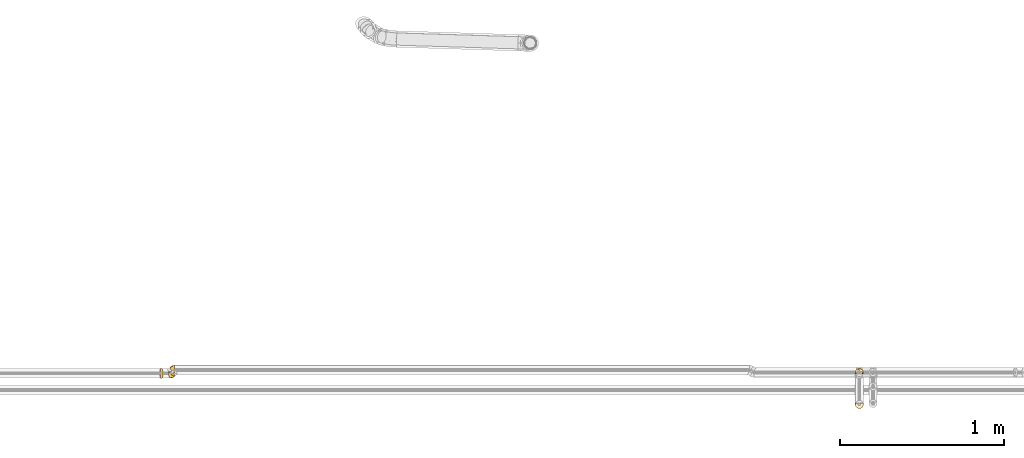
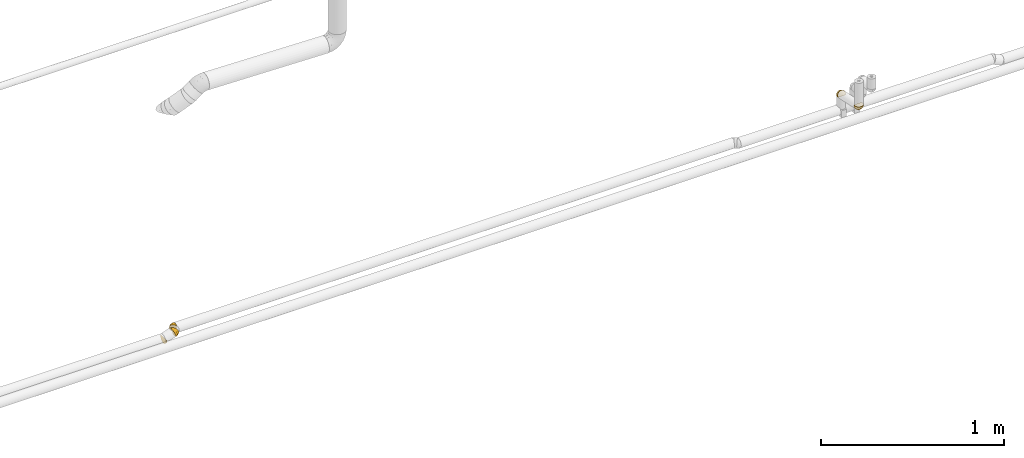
# One storey, part 42 of 156: 5 coverings.
"""IFC2X3 building model written with IfcOpenShell, lengths in millimetres."""

from ifc_helpers import new_model, entity, si_unit, converted_unit, derived_unit, direction, frame, origin_with_axes, place, context, subcontext, project, spatial, open_shell, surface_model, source, transform, mapped, element, save


model = new_model("IFC2X3")

# Units and contexts
model_context = context("Model", 3, precision=0.01, world=frame((0.0, 4.29681676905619e-09, 0.0)), true_north=direction((4.01073788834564e-13, 1.0)))
plan_context = context("Plan", 3, precision=0.01, world=frame((0.0, 4.29681676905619e-09, 0.0)), true_north=direction((4.01073788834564e-13, 1.0)))
body_context = subcontext(model_context, "Body", "Model", "MODEL_VIEW")
ifc_project = project(units=[converted_unit("PLANEANGLEUNIT", "DEGREE", entity("IfcPositiveLengthMeasure", 0.0174532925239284), si_unit("PLANEANGLEUNIT", "RADIAN"), dimensions=[0, 0, 0, 0, 0, 0, 0]), si_unit("AREAUNIT", "SQUARE_METRE"), si_unit("LENGTHUNIT", "METRE", prefix="MILLI"), si_unit("MASSUNIT", "GRAM", prefix="KILO"), si_unit("POWERUNIT", "WATT"), si_unit("PRESSUREUNIT", "PASCAL", prefix="KILO"), si_unit("FORCEUNIT", "NEWTON", prefix="KILO"), si_unit("ELECTRICVOLTAGEUNIT", "VOLT"), si_unit("ELECTRICCURRENTUNIT", "AMPERE"), si_unit("THERMODYNAMICTEMPERATUREUNIT", "DEGREE_CELSIUS"), si_unit("TIMEUNIT", "SECOND"), si_unit("VOLUMEUNIT", "CUBIC_METRE"), derived_unit("LINEARVELOCITYUNIT", [(si_unit("LENGTHUNIT", "METRE"), 1), (si_unit("TIMEUNIT", "SECOND"), -1)]), derived_unit("VOLUMETRICFLOWRATEUNIT", [(si_unit("VOLUMEUNIT", "CUBIC_METRE"), 1), (si_unit("TIMEUNIT", "SECOND"), -1)]), derived_unit("THERMALTRANSMITTANCEUNIT", [(si_unit("POWERUNIT", "WATT"), 1), (si_unit("THERMODYNAMICTEMPERATUREUNIT", "KELVIN"), -1), (si_unit("AREAUNIT", "SQUARE_METRE"), -1)]), derived_unit("SOUNDPRESSUREUNIT", [(si_unit("PRESSUREUNIT", "PASCAL"), 1)])], contexts=[model_context, plan_context])

# Site, building, storey
site_placement = place(None, frame((0.0, -4.29681676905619e-09, 0.0), z_axis=(0.0, 0.0, 1.0), x_axis=(1.0, 0.0, 0.0)))
site = spatial("IfcSite", under=ifc_project, at=site_placement, CompositionType="ELEMENT")
building_placement = place(site_placement, frame((0.0, 4.29681676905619e-09, 0.0), z_axis=(0.0, 0.0, 1.0), x_axis=(1.0, 0.0, 0.0)))
building = spatial("IfcBuilding", under=site, at=building_placement, Name="mc-building", CompositionType="ELEMENT")
storey_placement = place(building_placement, frame((0.0, 0.0, 205200.0), z_axis=(0.0, 0.0, 1.0), x_axis=(1.0, 0.0, 0.0)))
storey = spatial("IfcBuildingStorey", under=building, at=storey_placement, Name="Nivå D + 1,2 m", CompositionType="ELEMENT", Elevation=205200.0)

# Coverings
shared_shape_1 = source(origin_with_axes(), body_context, "Body", "SurfaceModel", [
    surface_model("IfcShellBasedSurfaceModel", [(-4.29663, 9.81241, 28.38286), (-0.70159, 6.63636, 29.59387), (2.98532, 3.37915, 30.0), (7.99073, -1.04289, 29.24708), (-4.29663, 9.81241, -28.38286), (-0.70988, 6.64369, -29.59203), (2.98532, 3.37915, -30.0), (7.98537, -1.03815, -29.24871), (12.73702, -5.23601, -27.03116), (16.99989, -9.00205, -23.45843), (17.00659, -9.00797, 23.45129), (20.56575, -12.15231, 18.70033), (23.24325, -14.51776, 13.01217), (24.90515, -15.98597, 6.67182), (24.90393, -15.98489, -6.67896), (20.5604, -12.14759, -18.70927), (23.23998, -14.51487, -13.02124), (25.46819, -16.48339, 0.0), (12.74382, -5.24201, 27.02679), (-4.50897, 9.71666, 28.38286), (-4.50897, 9.71666, -28.38286), (-4.50897, 4.92516, -29.59295), (-4.50897, 0.0, -30.0), (-4.50897, -7.76457, -28.97778), (-4.50897, 4.92516, 29.59295), (-4.50897, -7.76457, 28.97778), (-4.50897, 0.0, 30.0), (-4.50897, -15.0, -25.98076), (-4.50897, -21.2132, -21.2132), (-4.50897, -25.98076, -15.0), (-4.50897, -25.98076, 15.0), (-4.50897, -28.97778, -7.76457), (-4.50897, -21.2132, 21.2132), (-4.50897, -15.0, 25.98076), (-4.50897, -28.97778, 7.76457), (-4.50897, -30.0, 0.0), (-4.39251, 9.74171, 28.38286), (-4.39251, 9.74171, -28.38286), (0.68405, 5.41221, -29.74593), (-0.39852, 0.88385, -30.0), (-4.50897, 6.72926, -29.13732), (4.60805, -25.41982, -13.92133), (1.25517, -17.66881, -23.8006), (10.25408, -22.17336, -15.96566), (2.63993, -22.6679, -18.7222), (7.02106, -18.6166, -21.56827), (0.96042, -7.83773, -28.72367), (6.62166, -6.50116, -28.31794), (6.31651, -13.59135, -25.40449), (-0.19355, -12.8375, -26.91949), (3.71192, -28.2323, 0.0), (6.84037, -27.01979, -8.66814), (16.91621, -21.76486, -9.91246), (11.93281, -26.46461, 0.0), (-2.45375, 0.44192, -30.0), (11.27791, -10.60382, -25.40449), (1.2934, 2.1315, -30.0), (18.7005, -21.474, 0.0), (12.94339, -15.87328, -21.21725), (17.02068, -18.09888, -15.96566), (6.84282, -27.02242, 8.6574), (2.38458, -23.09017, 18.26284), (16.91875, -21.76661, 9.90425), (10.25688, -22.17838, 15.95655), (11.28343, -10.61106, 25.39877), (12.94791, -15.87999, 21.20916), (6.32, -13.59976, 25.39877), (1.45398, -13.16621, 26.57436), (1.63116, -18.05822, 23.44097), (1.2934, 2.1315, 30.0), (6.62576, -6.5083, 28.31507), (2.3461, -26.2775, 13.24165), (-2.45375, 0.44192, 30.0), (0.96285, -7.84821, 28.72044), (17.02418, -18.10341, 15.95656), (-0.39852, 0.88385, 30.0), (7.28871, -19.28089, 20.85209), (-2.05774, 7.83445, 29.13704), (-4.50897, 3.07073, 29.74622)], [open_shell([[[0, 1, 2]], [[2, 3, 0]], [[0, 3, 4]], [[5, 4, 6]], [[4, 7, 6]], [[7, 4, 8]], [[8, 4, 9]], [[4, 3, 10]], [[10, 11, 4]], [[12, 13, 4]], [[12, 4, 11]], [[14, 4, 13]], [[15, 9, 16]], [[9, 14, 16]], [[4, 14, 9]], [[13, 17, 14]], [[10, 3, 18]], [[19, 20, 21]], [[22, 23, 21]], [[24, 21, 23]], [[19, 21, 24]], [[25, 26, 24]], [[23, 25, 24]], [[23, 27, 25]], [[27, 28, 29]], [[27, 29, 30]], [[30, 29, 31]], [[25, 32, 33]], [[27, 30, 32]], [[34, 30, 31]], [[31, 35, 34]], [[32, 25, 27]], [[20, 19, 36]], [[37, 20, 36]], [[0, 4, 36]], [[37, 36, 4]], [[38, 6, 39]], [[5, 37, 4]], [[5, 40, 37]], [[21, 39, 22]], [[5, 38, 21]], [[21, 38, 39]], [[20, 37, 40]], [[21, 40, 5]], [[31, 29, 41]], [[28, 27, 42]], [[43, 44, 45]], [[42, 44, 28]], [[46, 47, 48]], [[23, 46, 49]], [[50, 31, 51]], [[46, 39, 47]], [[44, 43, 41]], [[52, 51, 43]], [[29, 28, 44]], [[51, 53, 50]], [[23, 54, 46]], [[50, 35, 31]], [[8, 9, 55]], [[8, 55, 47]], [[6, 7, 56]], [[56, 7, 47]], [[14, 57, 52]], [[49, 48, 42]], [[9, 15, 58]], [[48, 55, 58]], [[52, 53, 51]], [[16, 14, 52]], [[59, 58, 15]], [[43, 59, 52]], [[54, 23, 22]], [[59, 15, 16]], [[47, 55, 48]], [[8, 47, 7]], [[52, 59, 16]], [[58, 55, 9]], [[58, 59, 43]], [[49, 42, 27]], [[48, 58, 45]], [[45, 44, 42]], [[43, 51, 41]], [[48, 45, 42]], [[43, 45, 58]], [[23, 49, 27]], [[48, 49, 46]], [[31, 41, 51]], [[29, 44, 41]], [[47, 39, 56]], [[57, 14, 17]], [[57, 53, 52]], [[54, 39, 46]], [[50, 34, 35]], [[34, 50, 60]], [[30, 61, 32]], [[60, 62, 63]], [[17, 13, 57]], [[64, 65, 10]], [[66, 67, 68]], [[3, 69, 70]], [[61, 68, 32]], [[71, 63, 61]], [[18, 3, 70]], [[72, 25, 73]], [[12, 62, 13]], [[70, 64, 18]], [[11, 10, 65]], [[12, 11, 74]], [[60, 53, 62]], [[62, 12, 74]], [[63, 74, 65]], [[33, 32, 68]], [[66, 70, 73]], [[64, 10, 18]], [[73, 70, 75]], [[66, 68, 76]], [[73, 75, 72]], [[64, 70, 66]], [[34, 60, 71]], [[25, 33, 67]], [[65, 74, 11]], [[13, 62, 57]], [[62, 74, 63]], [[72, 26, 25]], [[65, 64, 66]], [[71, 61, 30]], [[63, 65, 76]], [[76, 68, 61]], [[66, 73, 67]], [[63, 76, 61]], [[66, 76, 65]], [[34, 71, 30]], [[63, 71, 60]], [[25, 67, 73]], [[33, 68, 67]], [[62, 53, 57]], [[69, 3, 2]], [[69, 75, 70]], [[50, 53, 60]], [[77, 0, 36]], [[1, 75, 2]], [[1, 78, 75]], [[24, 36, 19]], [[24, 78, 1]], [[24, 77, 36]], [[26, 75, 78]], [[1, 77, 24]]])]),
])
covering_1_placement = place(storey_placement, frame((332737.5, 459051.28638, 4228.32044000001), z_axis=(0.0, -0.331295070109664, 0.943527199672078), x_axis=(-1.0, 0.0, 0.0)))
element("IfcCovering", 1, at=covering_1_placement, inside=storey, Name="BI10T - Cellegummi 18-32 mm kalde rør", PredefinedType="INSULATION", context=body_context, shape_type="MappedRepresentation", body=[
    mapped(shared_shape_1, transform((0.0, 0.0, 0.0), scale=1.0)),
])
shared_shape_2 = source(origin_with_axes(), body_context, "Body", "SurfaceModel", [
    surface_model("IfcShellBasedSurfaceModel", [(-3.94179, 9.79965, 28.38286), (-0.54977, 6.40763, 29.59387), (2.92893, 2.92893, 30.0), (-3.94179, 9.79965, -28.38286), (-0.55759, 6.41546, -29.59203), (2.92893, 2.92893, -30.0), (7.64662, -1.78875, -29.24871), (12.12993, -6.27206, -27.03116), (16.15206, -10.29419, -23.45843), (19.51655, -13.65868, 18.70033), (22.04285, -16.18498, 13.01217), (23.61089, -17.75303, 6.67182), (-4.14214, 9.71666, 28.38286), (-4.14214, 9.71666, -28.38286), (-4.14214, 4.92516, 29.59295), (-4.14214, -15.0, -25.98076), (-4.14214, -21.2132, -21.2132), (-4.14214, -25.98076, -15.0), (-4.14214, -7.76457, 28.97778), (-4.14214, -21.2132, 21.2132), (-4.14214, -15.0, 25.98076), (-4.14214, -28.97778, -7.76457), (-4.14214, -30.0, 0.0), (-4.14214, -28.97778, 7.76457), (-4.03371, 9.73823, 28.38286), (-4.03371, 9.73823, -28.38286), (0.75762, 5.10024, -29.74593), (-0.3153, 0.7612, -30.0), (-4.14214, 6.72926, -29.13732), (-4.14214, 4.92516, -29.59295), (-4.14214, 0.0, -30.0), (3.51153, -28.47759, 0.0), (1.07073, -16.48719, -24.72166), (5.96174, -13.90929, -25.40449), (4.98203, -19.8458, -21.21707), (12.00115, -16.70966, -21.21725), (9.63678, -22.60697, -15.96566), (23.60974, -17.75187, -6.67896), (24.14214, -18.28427, 0.0), (16.04291, -23.696, 0.0), (-4.14214, -7.76457, -28.97778), (1.01665, -8.70344, -28.48869), (6.0887, -27.10053, -9.41207), (6.15361, -7.03458, -28.31794), (2.559, -24.06296, -17.00372), (15.67582, -22.79166, -9.91246), (-2.22872, 0.3806, -30.0), (10.70486, -11.29106, -25.40449), (11.1652, -26.95518, 0.0), (0.90412, 1.576, -30.0), (19.5115, -13.65364, -18.70927), (22.03976, -16.18189, -13.02124), (16.10573, -19.03613, -15.96566), (6.15732, -7.04193, 28.31507), (7.65167, -1.79381, 29.24708), (0.90412, 1.576, 30.0), (6.09167, -27.10321, 9.40185), (9.63946, -22.61205, 15.95655), (4.9843, -19.85321, 21.20933), (2.56271, -24.06815, 16.99528), (12.00534, -16.71658, 21.20916), (16.10903, -19.04081, 15.95656), (1.01832, -8.71358, 28.48531), (-0.3153, 0.7612, 30.0), (-2.22872, 0.3806, 30.0), (10.71005, -11.29855, 25.39877), (16.15838, -10.30052, 23.45129), (1.07034, -16.49587, 24.71586), (15.67835, -22.79349, 9.90425), (12.13634, -6.27848, 27.02679), (5.96496, -13.91782, 25.39877), (-4.14214, -25.98076, 15.0), (-4.14214, 0.0, 30.0), (-1.82933, 7.68719, 29.13704), (-4.14214, 3.07073, 29.74622)], [open_shell([[[0, 1, 2]], [[0, 2, 3]], [[4, 3, 5]], [[3, 6, 5]], [[6, 3, 7]], [[7, 3, 8]], [[9, 10, 11]], [[12, 13, 14]], [[15, 16, 17]], [[18, 19, 20]], [[21, 22, 23]], [[13, 12, 24]], [[25, 13, 24]], [[0, 3, 24]], [[25, 24, 3]], [[26, 5, 27]], [[4, 25, 3]], [[4, 28, 25]], [[29, 27, 30]], [[29, 26, 27]], [[29, 28, 4]], [[13, 25, 28]], [[4, 26, 29]], [[21, 31, 22]], [[32, 33, 34]], [[34, 35, 36]], [[33, 35, 34]], [[37, 38, 39]], [[15, 40, 41]], [[31, 21, 42]], [[41, 27, 43]], [[17, 44, 42]], [[36, 45, 42]], [[16, 34, 44]], [[41, 33, 32]], [[40, 46, 41]], [[17, 42, 21]], [[7, 8, 47]], [[7, 47, 43]], [[42, 48, 31]], [[43, 49, 6]], [[35, 47, 8]], [[41, 43, 33]], [[8, 50, 35]], [[33, 47, 35]], [[45, 39, 48]], [[51, 37, 45]], [[52, 35, 50]], [[36, 52, 45]], [[45, 37, 39]], [[52, 50, 51]], [[49, 5, 6]], [[7, 43, 6]], [[48, 42, 45]], [[49, 43, 27]], [[43, 47, 33]], [[45, 52, 51]], [[35, 52, 36]], [[44, 34, 36]], [[32, 16, 15]], [[42, 44, 36]], [[16, 44, 17]], [[16, 32, 34]], [[41, 32, 15]], [[46, 40, 30]], [[46, 27, 41]], [[53, 54, 55]], [[23, 31, 56]], [[57, 58, 59]], [[60, 61, 9]], [[62, 63, 64]], [[65, 60, 66]], [[67, 62, 20]], [[39, 68, 48]], [[57, 60, 58]], [[56, 68, 57]], [[69, 54, 53]], [[64, 18, 62]], [[10, 68, 11]], [[39, 38, 11]], [[9, 66, 60]], [[10, 9, 61]], [[56, 48, 68]], [[68, 10, 61]], [[57, 61, 60]], [[19, 58, 67]], [[62, 70, 53]], [[65, 66, 69]], [[63, 53, 55]], [[58, 60, 70]], [[56, 57, 59]], [[65, 53, 70]], [[71, 23, 56]], [[18, 64, 72]], [[54, 2, 55]], [[68, 39, 11]], [[63, 62, 53]], [[20, 62, 18]], [[68, 61, 57]], [[53, 65, 69]], [[60, 65, 70]], [[67, 58, 70]], [[59, 19, 71]], [[62, 67, 70]], [[19, 67, 20]], [[19, 59, 58]], [[56, 59, 71]], [[31, 23, 22]], [[31, 48, 56]], [[73, 0, 24]], [[1, 63, 2]], [[1, 74, 63]], [[14, 24, 12]], [[14, 73, 24]], [[1, 73, 14]], [[72, 63, 74]], [[14, 74, 1]], [[69, 3, 2]], [[69, 2, 54]], [[69, 66, 9]], [[38, 3, 9]], [[38, 9, 11]], [[50, 8, 51]], [[51, 38, 37]], [[51, 8, 3]], [[38, 51, 3]], [[9, 3, 69]], [[13, 29, 30]], [[30, 40, 13]], [[14, 13, 23]], [[19, 18, 72]], [[72, 14, 19]], [[21, 13, 40]], [[21, 40, 17]], [[13, 21, 23]], [[19, 23, 71]], [[23, 19, 14]], [[15, 17, 40]]])]),
])
covering_2_placement = place(storey_placement, frame((332718.77342, 459031.28638, 4221.29798), z_axis=(-0.351123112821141, 0.0, 0.936329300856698), x_axis=(0.936329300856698, 0.0, 0.351123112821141)))
element("IfcCovering", 2, at=covering_2_placement, inside=storey, Name="BI10T - Cellegummi 18-32 mm kalde rør", PredefinedType="INSULATION", context=body_context, shape_type="MappedRepresentation", body=[
    mapped(shared_shape_2, transform((0.0, 0.0, 0.0), scale=1.0)),
])
shared_shape_3 = source(origin_with_axes(), body_context, "Body", "SurfaceModel", [
    surface_model("IfcShellBasedSurfaceModel", [(-1.81335, 9.71666, -28.38286), (-1.81335, 4.92516, -29.59295), (-1.81335, 0.0, -30.0), (-1.81335, -7.76457, -28.97778), (-1.81335, -7.76457, 28.97778), (-1.81335, 9.71666, 28.38286), (-1.81335, 4.92516, 29.59295), (-1.81335, 0.0, 30.0), (-1.81335, -15.0, -25.98076), (-1.81335, -21.2132, -21.2132), (-1.81335, -25.98076, -15.0), (-1.81335, -25.98076, 15.0), (-1.81335, -28.97778, -7.76457), (-1.81335, -21.2132, 21.2132), (-1.81335, -15.0, 25.98076), (-1.81335, -28.97778, 7.76457), (-1.81335, -30.0, 0.0), (-0.03145, 5.24828, -29.59295), (-1.72019, 9.75159, -28.38286), (-1.71386, 9.7347, 28.38286), (-0.03145, 5.24828, 29.59295), (1.69789, 0.63671, -30.0), (4.42421, -6.63349, 28.97778), (4.42421, -6.63349, -28.97778), (1.69789, 0.63671, 30.0), (6.96474, -13.40823, -25.98076), (10.82034, -23.68984, -15.0), (9.14634, -19.22583, -21.2132), (10.82034, -23.68984, 15.0), (11.87267, -26.49603, -7.76457), (6.96474, -13.40823, 25.98076), (9.14634, -19.22583, 21.2132), (11.87267, -26.49603, 7.76457), (12.23159, -27.45317, 0.0), (-0.0291, 0.16046, -30.0), (-1.71386, 9.7347, -28.38286), (1.05706, -5.82931, -29.37589), (3.22945, -17.80932, -23.8006), (2.01931, -11.13582, -27.71639), (4.21752, -23.25822, -18.26284), (5.21229, -28.74405, -6.08746), (4.91619, -27.11117, -11.4805), (5.32365, -29.35814, 0.0), (2.01931, -11.13582, 27.71639), (3.22945, -17.80932, 23.8006), (5.21229, -28.74405, 6.08746), (4.21752, -23.25822, 18.26284), (4.91619, -27.11117, 11.4805), (1.05706, -5.82931, 29.37589), (-0.0291, 0.16046, 30.0), (-1.02777, 7.7467, 28.91635), (-1.81335, 6.72926, 29.13732), (0.61968, 3.51192, 29.74622), (-1.81335, 3.07073, 29.74622)], [open_shell([[[0, 1, 2]], [[2, 3, 0]], [[0, 3, 4]], [[5, 0, 6]], [[7, 6, 0]], [[4, 7, 0]], [[3, 8, 4]], [[8, 9, 10]], [[8, 10, 11]], [[11, 10, 12]], [[4, 13, 14]], [[8, 11, 13]], [[15, 11, 12]], [[12, 16, 15]], [[13, 4, 8]], [[17, 18, 19]], [[20, 21, 17]], [[21, 22, 23]], [[20, 17, 19]], [[21, 20, 24]], [[21, 24, 22]], [[22, 25, 23]], [[26, 27, 25]], [[28, 26, 25]], [[29, 26, 28]], [[30, 31, 22]], [[31, 28, 25]], [[29, 28, 32]], [[32, 33, 29]], [[25, 22, 31]], [[2, 1, 34]], [[34, 1, 17]], [[17, 21, 34]], [[17, 1, 35]], [[2, 36, 3]], [[8, 37, 9]], [[38, 37, 8]], [[9, 39, 10]], [[8, 3, 38]], [[36, 38, 3]], [[12, 40, 16]], [[26, 29, 41]], [[41, 40, 12]], [[41, 10, 39]], [[39, 9, 37]], [[21, 36, 34]], [[2, 34, 36]], [[39, 37, 27]], [[25, 37, 38]], [[33, 40, 29]], [[23, 36, 21]], [[16, 40, 42]], [[23, 25, 38]], [[10, 41, 12]], [[27, 37, 25]], [[40, 33, 42]], [[40, 41, 29]], [[41, 39, 26]], [[27, 26, 39]], [[36, 23, 38]], [[43, 44, 30]], [[16, 42, 45]], [[13, 11, 46]], [[47, 11, 15]], [[24, 48, 22]], [[32, 28, 47]], [[44, 43, 14]], [[7, 48, 49]], [[14, 13, 44]], [[31, 46, 28]], [[48, 43, 22]], [[4, 48, 7]], [[47, 45, 32]], [[47, 46, 11]], [[44, 46, 31]], [[44, 13, 46]], [[46, 47, 28]], [[44, 31, 30]], [[45, 47, 15]], [[43, 48, 4]], [[14, 43, 4]], [[24, 49, 48]], [[33, 45, 42]], [[30, 22, 43]], [[16, 45, 15]], [[45, 33, 32]], [[50, 51, 6]], [[49, 52, 53]], [[20, 6, 52]], [[52, 6, 53]], [[49, 24, 52]], [[50, 5, 51]], [[53, 7, 49]], [[6, 20, 50]]])]),
])
covering_3_placement = place(storey_placement, frame((332657.5, 459031.28638, 4198.32044000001), z_axis=(0.0, -1.0, 0.0), x_axis=(1.0, 0.0, 0.0)))
element("IfcCovering", 3, at=covering_3_placement, inside=storey, Name="BI10T - Cellegummi 18-32 mm kalde rør", PredefinedType="INSULATION", context=body_context, shape_type="MappedRepresentation", body=[
    mapped(shared_shape_3, transform((0.0, 0.0, 0.0), scale=1.0)),
])
shared_shape_4 = source(origin_with_axes(), body_context, "Body", "SurfaceModel", [
    surface_model("IfcShellBasedSurfaceModel", [(-7.87323, 9.95226, -23.01173), (-7.87323, 9.95226, 23.01173), (-3.18698, 8.95616, 24.49909), (12.29755, 5.66483, 22.52232), (1.68364, 7.92088, 25.0), (-3.1985, 8.95861, -24.49669), (1.68364, 7.92088, -25.0), (7.12199, 6.76493, -24.37392), (12.29016, 5.6664, -22.52596), (16.9267, 4.68087, -19.54869), (7.12781, 6.76369, 24.37256), (16.93399, 4.67932, 19.54275), (25.52493, 2.85326, 5.55985), (23.71735, 3.23747, 10.84348), (20.80514, 3.85648, 15.5836), (26.13733, 2.72309, 0.0), (20.79933, 3.85772, -15.59106), (25.5236, 2.85354, -5.5658), (23.71379, 3.23823, -10.85104), (-8.09784, 9.77037, -23.01173), (-8.09784, 4.98531, -24.49789), (-8.09784, -6.47048, -24.14815), (-8.09784, 0.0, -25.0), (-8.09784, -6.47048, 24.14815), (-8.09784, -12.5, 21.65064), (-8.09784, 4.98531, 24.49789), (-8.09784, 9.77037, 23.01173), (-8.09784, 0.0, 25.0), (-8.09784, -12.5, -21.65064), (-8.09784, -17.67767, -17.67767), (-8.09784, -21.65064, -12.5), (-8.09784, -24.14815, -6.47048), (-8.09784, -17.67767, 17.67767), (-8.09784, -24.14815, 6.47048), (-8.09784, -21.65064, 12.5), (-8.09784, -25.0, 0.0), (-7.95333, 9.82155, 23.01173), (-7.95333, 9.82155, -23.01173), (-0.31579, 8.34588, -24.79387), (-1.80464, 2.22854, -25.0), (-8.09784, 7.80835, -23.6211), (17.62699, -0.20294, -17.68104), (-4.95124, 1.11427, -25.0), (-5.23809, -3.98633, -24.63165), (-4.18956, -9.1728, -23.09699), (-2.28548, -3.60567, -24.53581), (4.89993, -9.74742, -20.95041), (-1.15768, -14.24529, -19.83383), (0.25481, -7.69475, -23.09699), (3.62071, -22.53756, -4.5445), (-1.59516, -23.14921, -7.71133), (4.11489, -20.76134, -9.56709), (7.24515, -21.45779, 0.0), (10.50178, -18.69021, -6.3056), (13.36384, -16.50297, 0.0), (12.75547, -0.38728, -21.17041), (8.70501, 2.86866, -23.59828), (6.71912, -0.66065, -23.59828), (9.64367, -5.67805, -20.92753), (4.16156, -4.69897, -23.26917), (-1.2503, -19.03737, -15.21903), (-0.0605, 5.07471, -25.0), (14.83641, -4.99814, -17.94814), (20.3911, -1.53938, -13.96307), (22.24013, -4.43231, -8.26039), (9.41741, -11.42622, -17.68104), (16.45252, -13.32527, -7.44962), (18.04937, -6.95939, -13.30472), (2.29093, -0.18621, -24.58257), (19.48254, -11.54815, 0.0), (13.68476, -11.22735, -14.42987), (10.18645, -15.83991, -12.49306), (4.21136, -14.34884, -18.06336), (4.56625, -18.04133, -13.91664), (22.80993, -4.41253, 0.0), (-0.06434, -23.14532, 0.0), (0.38725, -2.4063, -24.48867), (4.89858, -9.75794, 20.94517), (4.21205, -14.36135, 18.05238), (9.42167, -11.43144, 17.6743), (3.62071, -22.53756, 4.5445), (-1.59516, -23.14921, 7.71133), (16.46133, -13.31833, 7.44448), (10.50616, -18.68754, 6.30504), (-1.15768, -14.24529, 19.83383), (-2.28548, -3.60567, 24.53581), (-4.95124, 1.11427, 25.0), (-5.23809, -3.98633, 24.63165), (-1.2503, -19.03737, 15.21903), (-4.18956, -9.1728, 23.09699), (0.25481, -7.69475, 23.09699), (10.99147, -15.34964, 12.35562), (4.11489, -20.76134, 9.56709), (4.16642, -4.70623, 23.26575), (2.29283, -0.19167, 24.58161), (0.04089, -1.91801, 24.60404), (9.64715, -5.68393, 20.92328), (12.76139, -0.39241, 21.16564), (6.72322, -0.66667, 23.59589), (22.24271, -4.43244, 8.25354), (17.63256, -0.20717, 17.6743), (14.83983, -5.00437, 17.94206), (20.39606, -1.54127, 13.95518), (8.71088, 2.86497, 23.59589), (-0.0605, 5.07471, 25.0), (-1.80464, 2.22854, 25.0), (18.05343, -6.96188, 13.29713), (15.53039, -11.73704, 11.67592), (4.85588, -17.80748, 14.05266), (-5.95402, 9.54432, 23.62086), (-8.09784, 2.04413, 24.79412)], [open_shell([[[0, 1, 2]], [[3, 0, 2]], [[4, 3, 2]], [[5, 0, 6]], [[0, 7, 6]], [[7, 0, 8]], [[8, 0, 9]], [[3, 4, 10]], [[11, 12, 0]], [[13, 12, 11]], [[13, 11, 14]], [[0, 12, 15]], [[16, 9, 15]], [[16, 17, 18]], [[17, 16, 15]], [[0, 15, 9]], [[0, 3, 11]], [[19, 20, 21]], [[22, 21, 20]], [[23, 19, 24]], [[25, 26, 27]], [[23, 27, 26]], [[26, 19, 23]], [[19, 21, 24]], [[28, 29, 30]], [[31, 21, 30]], [[21, 31, 24]], [[32, 24, 33]], [[32, 33, 34]], [[24, 31, 33]], [[31, 35, 33]], [[30, 21, 28]], [[19, 26, 36]], [[37, 19, 36]], [[1, 0, 36]], [[37, 36, 0]], [[38, 6, 39]], [[5, 37, 0]], [[5, 40, 37]], [[20, 39, 22]], [[20, 40, 5]], [[20, 38, 39]], [[19, 37, 40]], [[5, 38, 20]], [[41, 9, 16]], [[22, 42, 43]], [[44, 28, 21]], [[44, 43, 45]], [[46, 47, 48]], [[28, 47, 29]], [[49, 50, 51]], [[52, 53, 54]], [[55, 56, 8]], [[57, 58, 59]], [[60, 30, 29]], [[30, 60, 50]], [[44, 47, 28]], [[60, 29, 47]], [[61, 7, 56]], [[44, 45, 48]], [[55, 8, 9]], [[62, 41, 63]], [[64, 18, 17]], [[8, 56, 7]], [[57, 56, 55]], [[62, 65, 58]], [[57, 55, 58]], [[66, 67, 64]], [[63, 67, 62]], [[59, 68, 57]], [[66, 64, 69]], [[67, 63, 64]], [[70, 66, 71]], [[6, 7, 61]], [[60, 72, 73]], [[68, 61, 57]], [[17, 74, 64]], [[51, 73, 71]], [[52, 49, 53]], [[53, 71, 66]], [[72, 47, 46]], [[50, 60, 51]], [[75, 49, 52]], [[75, 35, 31]], [[61, 56, 57]], [[50, 75, 31]], [[66, 69, 54]], [[53, 49, 51]], [[71, 53, 51]], [[54, 53, 66]], [[73, 51, 60]], [[71, 65, 70]], [[62, 58, 55]], [[59, 46, 48]], [[46, 58, 65]], [[48, 45, 76]], [[75, 50, 49]], [[30, 50, 31]], [[43, 44, 21]], [[47, 44, 48]], [[55, 9, 41]], [[62, 67, 70]], [[22, 43, 21]], [[43, 42, 45]], [[39, 76, 42]], [[39, 68, 76]], [[58, 46, 59]], [[46, 65, 72]], [[71, 72, 65]], [[60, 47, 72]], [[41, 16, 63]], [[55, 41, 62]], [[16, 18, 63]], [[64, 63, 18]], [[76, 68, 59]], [[61, 68, 39]], [[48, 76, 59]], [[76, 45, 42]], [[74, 17, 15]], [[74, 69, 64]], [[72, 71, 73]], [[62, 70, 65]], [[66, 70, 67]], [[77, 78, 79]], [[52, 80, 75]], [[34, 33, 81]], [[81, 75, 80]], [[54, 82, 83]], [[84, 24, 32]], [[85, 86, 87]], [[32, 34, 88]], [[89, 84, 90]], [[83, 91, 92]], [[87, 23, 89]], [[89, 23, 24]], [[93, 94, 95]], [[96, 97, 98]], [[74, 15, 12]], [[82, 69, 99]], [[100, 97, 101]], [[13, 102, 99]], [[101, 97, 96]], [[74, 12, 99]], [[100, 14, 11]], [[13, 99, 12]], [[11, 3, 97]], [[103, 97, 3]], [[4, 104, 10]], [[32, 88, 84]], [[96, 93, 77]], [[104, 98, 103]], [[94, 104, 105]], [[103, 3, 10]], [[84, 78, 77]], [[14, 100, 102]], [[99, 106, 107]], [[23, 87, 27]], [[107, 79, 91]], [[92, 80, 83]], [[81, 88, 34]], [[108, 78, 88]], [[33, 35, 75]], [[104, 103, 10]], [[97, 103, 98]], [[54, 83, 52]], [[81, 80, 92]], [[82, 54, 69]], [[83, 80, 52]], [[91, 83, 82]], [[107, 91, 82]], [[78, 108, 79]], [[93, 96, 98]], [[101, 79, 106]], [[94, 93, 98]], [[77, 93, 90]], [[81, 92, 88]], [[75, 81, 33]], [[84, 89, 24]], [[85, 87, 89]], [[79, 101, 96]], [[102, 100, 101]], [[85, 89, 90]], [[27, 87, 86]], [[95, 90, 93]], [[86, 85, 95]], [[84, 77, 90]], [[96, 77, 79]], [[84, 88, 78]], [[88, 92, 108]], [[97, 100, 11]], [[102, 101, 106]], [[99, 102, 106]], [[13, 14, 102]], [[104, 94, 98]], [[95, 94, 105]], [[86, 95, 105]], [[95, 85, 90]], [[99, 69, 74]], [[99, 107, 82]], [[79, 107, 106]], [[92, 91, 108]], [[79, 108, 91]], [[109, 1, 36]], [[2, 105, 4]], [[2, 110, 105]], [[25, 36, 26]], [[25, 110, 2]], [[25, 109, 36]], [[27, 105, 110]], [[2, 109, 25]]])]),
])
covering_4_placement = place(storey_placement, frame((336925.62218, 459036.28638, 4328.32044000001), z_axis=(1.0, 0.0, 0.0), x_axis=(0.0, 0.0, 1.0)))
element("IfcCovering", 4, at=covering_4_placement, inside=storey, Name="BI10T - Cellegummi 18-32 mm kalde rør", PredefinedType="INSULATION", context=body_context, shape_type="MappedRepresentation", body=[
    mapped(shared_shape_4, transform((0.0, 0.0, 0.0), scale=1.0)),
])
shared_shape_5 = source(origin_with_axes(), body_context, "Body", "SurfaceModel", [
    surface_model("IfcShellBasedSurfaceModel", [(-7.87323, 9.95226, -23.01173), (-7.87323, 9.95226, 23.01173), (-3.18698, 8.95616, 24.49909), (-3.1985, 8.95861, -24.49669), (1.68364, 7.92088, -25.0), (7.12199, 6.76493, -24.37392), (12.29016, 5.6664, -22.52596), (16.9267, 4.68087, -19.54869), (-8.09784, 0.0, -25.0), (-8.09784, -6.47048, -24.14815), (-8.09784, 4.98531, -24.49789), (-8.09784, -12.5, -21.65064), (-8.09784, -17.67767, -17.67767), (-8.09784, -21.65064, -12.5), (-8.09784, -17.67767, 17.67767), (-8.09784, -24.14815, 6.47048), (-8.09784, -21.65064, 12.5), (-8.09784, -24.14815, -6.47048), (-8.09784, -25.0, 0.0), (-8.09784, 9.77037, -23.01173), (-8.09784, 9.77037, 23.01173), (-7.95333, 9.82155, 23.01173), (-7.95333, 9.82155, -23.01173), (-0.31579, 8.34588, -24.79387), (-1.80464, 2.22854, -25.0), (-8.09784, 7.80835, -23.6211), (17.62699, -0.20294, -17.68104), (20.79933, 3.85772, -15.59106), (-4.95124, 1.11427, -25.0), (-5.23809, -3.98633, -24.63165), (-4.18956, -9.1728, -23.09699), (-2.28548, -3.60567, -24.53581), (4.89993, -9.74742, -20.95041), (-1.15768, -14.24529, -19.83383), (0.25481, -7.69475, -23.09699), (3.62071, -22.53756, -4.5445), (-1.59516, -23.14921, -7.71133), (4.11489, -20.76134, -9.56709), (7.24515, -21.45779, 0.0), (10.50178, -18.69021, -6.3056), (13.36384, -16.50297, 0.0), (12.75547, -0.38728, -21.17041), (8.70501, 2.86866, -23.59828), (6.71912, -0.66065, -23.59828), (9.64367, -5.67805, -20.92753), (4.16156, -4.69897, -23.26917), (-1.2503, -19.03737, -15.21903), (-0.0605, 5.07471, -25.0), (14.83641, -4.99814, -17.94814), (20.3911, -1.53938, -13.96307), (22.24013, -4.43231, -8.26039), (23.71379, 3.23823, -10.85104), (25.5236, 2.85354, -5.5658), (9.41741, -11.42622, -17.68104), (16.45252, -13.32527, -7.44962), (18.04937, -6.95939, -13.30472), (2.29093, -0.18621, -24.58257), (19.48254, -11.54815, 0.0), (13.68476, -11.22735, -14.42987), (10.18645, -15.83991, -12.49306), (4.21136, -14.34884, -18.06336), (4.56625, -18.04133, -13.91664), (22.80993, -4.41253, 0.0), (-0.06434, -23.14532, 0.0), (0.38725, -2.4063, -24.48867), (26.13733, 2.72309, 0.0), (4.89858, -9.75794, 20.94517), (4.21205, -14.36135, 18.05238), (9.42167, -11.43144, 17.6743), (3.62071, -22.53756, 4.5445), (-1.59516, -23.14921, 7.71133), (16.46133, -13.31833, 7.44448), (10.50616, -18.68754, 6.30504), (-1.15768, -14.24529, 19.83383), (-8.09784, -12.5, 21.65064), (-2.28548, -3.60567, 24.53581), (-4.95124, 1.11427, 25.0), (-5.23809, -3.98633, 24.63165), (-1.2503, -19.03737, 15.21903), (-4.18956, -9.1728, 23.09699), (0.25481, -7.69475, 23.09699), (10.99147, -15.34964, 12.35562), (4.11489, -20.76134, 9.56709), (-8.09784, -6.47048, 24.14815), (4.16642, -4.70623, 23.26575), (2.29283, -0.19167, 24.58161), (0.04089, -1.91801, 24.60404), (9.64715, -5.68393, 20.92328), (12.76139, -0.39241, 21.16564), (6.72322, -0.66667, 23.59589), (25.52493, 2.85326, 5.55985), (22.24271, -4.43244, 8.25354), (17.63256, -0.20717, 17.6743), (14.83983, -5.00437, 17.94206), (23.71735, 3.23747, 10.84348), (20.39606, -1.54127, 13.95518), (20.80514, 3.85648, 15.5836), (16.93399, 4.67932, 19.54275), (12.29755, 5.66483, 22.52232), (8.71088, 2.86497, 23.59589), (1.68364, 7.92088, 25.0), (-0.0605, 5.07471, 25.0), (7.12781, 6.76369, 24.37256), (-1.80464, 2.22854, 25.0), (18.05343, -6.96188, 13.29713), (15.53039, -11.73704, 11.67592), (-8.09784, 0.0, 25.0), (4.85588, -17.80748, 14.05266), (-5.95402, 9.54432, 23.62086), (-8.09784, 2.04413, 24.79412), (-8.09784, 4.98531, 24.49789)], [open_shell([[[0, 1, 2]], [[3, 0, 4]], [[0, 5, 4]], [[5, 0, 6]], [[6, 0, 7]], [[8, 9, 10]], [[11, 12, 13]], [[14, 15, 16]], [[17, 18, 15]], [[13, 9, 11]], [[19, 20, 21]], [[22, 19, 21]], [[1, 0, 21]], [[22, 21, 0]], [[23, 4, 24]], [[3, 22, 0]], [[3, 25, 22]], [[10, 24, 8]], [[10, 25, 3]], [[10, 23, 24]], [[19, 22, 25]], [[3, 23, 10]], [[26, 7, 27]], [[8, 28, 29]], [[30, 11, 9]], [[30, 29, 31]], [[32, 33, 34]], [[11, 33, 12]], [[35, 36, 37]], [[38, 39, 40]], [[41, 42, 6]], [[43, 44, 45]], [[46, 13, 12]], [[13, 46, 36]], [[30, 33, 11]], [[46, 12, 33]], [[47, 5, 42]], [[30, 31, 34]], [[41, 6, 7]], [[48, 26, 49]], [[50, 51, 52]], [[6, 42, 5]], [[43, 42, 41]], [[48, 53, 44]], [[43, 41, 44]], [[54, 55, 50]], [[49, 55, 48]], [[45, 56, 43]], [[54, 50, 57]], [[55, 49, 50]], [[58, 54, 59]], [[4, 5, 47]], [[46, 60, 61]], [[56, 47, 43]], [[52, 62, 50]], [[37, 61, 59]], [[38, 35, 39]], [[39, 59, 54]], [[60, 33, 32]], [[36, 46, 37]], [[63, 35, 38]], [[63, 18, 17]], [[47, 42, 43]], [[36, 63, 17]], [[54, 57, 40]], [[39, 35, 37]], [[59, 39, 37]], [[40, 39, 54]], [[61, 37, 46]], [[59, 53, 58]], [[48, 44, 41]], [[45, 32, 34]], [[32, 44, 53]], [[34, 31, 64]], [[63, 36, 35]], [[13, 36, 17]], [[29, 30, 9]], [[33, 30, 34]], [[41, 7, 26]], [[48, 55, 58]], [[8, 29, 9]], [[29, 28, 31]], [[24, 64, 28]], [[24, 56, 64]], [[44, 32, 45]], [[32, 53, 60]], [[59, 60, 53]], [[46, 33, 60]], [[26, 27, 49]], [[41, 26, 48]], [[27, 51, 49]], [[50, 49, 51]], [[64, 56, 45]], [[47, 56, 24]], [[34, 64, 45]], [[64, 31, 28]], [[62, 52, 65]], [[62, 57, 50]], [[60, 59, 61]], [[48, 58, 53]], [[54, 58, 55]], [[66, 67, 68]], [[38, 69, 63]], [[16, 15, 70]], [[70, 63, 69]], [[40, 71, 72]], [[73, 74, 14]], [[75, 76, 77]], [[14, 16, 78]], [[79, 73, 80]], [[72, 81, 82]], [[77, 83, 79]], [[79, 83, 74]], [[84, 85, 86]], [[87, 88, 89]], [[62, 65, 90]], [[71, 57, 91]], [[92, 88, 93]], [[94, 95, 91]], [[93, 88, 87]], [[62, 90, 91]], [[92, 96, 97]], [[94, 91, 90]], [[97, 98, 88]], [[99, 88, 98]], [[100, 101, 102]], [[14, 78, 73]], [[87, 84, 66]], [[101, 89, 99]], [[85, 101, 103]], [[99, 98, 102]], [[73, 67, 66]], [[96, 92, 95]], [[91, 104, 105]], [[83, 77, 106]], [[105, 68, 81]], [[82, 69, 72]], [[70, 78, 16]], [[107, 67, 78]], [[15, 18, 63]], [[101, 99, 102]], [[88, 99, 89]], [[40, 72, 38]], [[70, 69, 82]], [[71, 40, 57]], [[72, 69, 38]], [[81, 72, 71]], [[105, 81, 71]], [[67, 107, 68]], [[84, 87, 89]], [[93, 68, 104]], [[85, 84, 89]], [[66, 84, 80]], [[70, 82, 78]], [[63, 70, 15]], [[73, 79, 74]], [[75, 77, 79]], [[68, 93, 87]], [[95, 92, 93]], [[75, 79, 80]], [[106, 77, 76]], [[86, 80, 84]], [[76, 75, 86]], [[73, 66, 80]], [[87, 66, 68]], [[73, 78, 67]], [[78, 82, 107]], [[88, 92, 97]], [[95, 93, 104]], [[91, 95, 104]], [[94, 96, 95]], [[101, 85, 89]], [[86, 85, 103]], [[76, 86, 103]], [[86, 75, 80]], [[91, 57, 62]], [[91, 105, 71]], [[68, 105, 104]], [[82, 81, 107]], [[68, 107, 81]], [[108, 1, 21]], [[2, 103, 100]], [[2, 109, 103]], [[110, 21, 20]], [[110, 109, 2]], [[110, 108, 21]], [[106, 103, 109]], [[2, 108, 110]], [[2, 100, 0]], [[0, 100, 98]], [[100, 102, 98]], [[98, 97, 96]], [[65, 0, 94]], [[94, 98, 96]], [[65, 94, 90]], [[0, 27, 7]], [[51, 65, 52]], [[65, 51, 27]], [[65, 27, 0]], [[0, 98, 94]], [[110, 19, 10]], [[110, 10, 9]], [[20, 19, 110]], [[83, 106, 110]], [[9, 83, 110]], [[9, 13, 83]], [[17, 83, 13]], [[17, 15, 83]], [[74, 83, 14]], [[15, 14, 83]]])]),
])
covering_5_placement = place(storey_placement, frame((336925.62218, 458840.65685, 4369.90278), z_axis=(-1.0, 0.0, 0.0), x_axis=(0.0, -0.978147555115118, 0.207911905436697)))
element("IfcCovering", 5, at=covering_5_placement, inside=storey, Name="BI10T - Cellegummi 18-32 mm kalde rør", PredefinedType="INSULATION", context=body_context, shape_type="MappedRepresentation", body=[
    mapped(shared_shape_5, transform((0.0, 0.0, 0.0), scale=1.0)),
])

save(model, "model.ifc")
